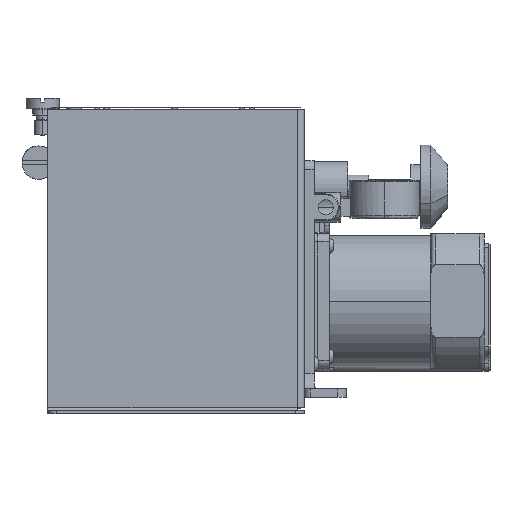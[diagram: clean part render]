
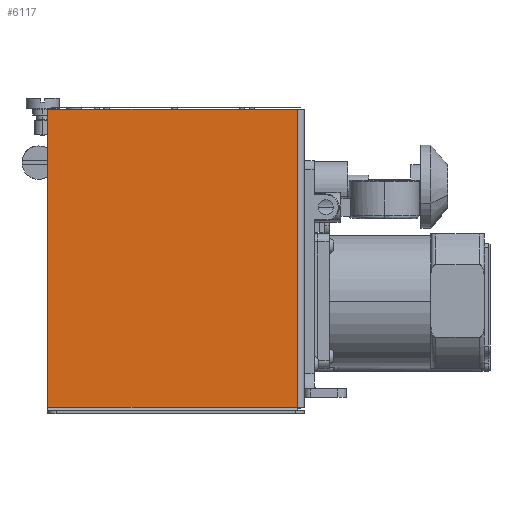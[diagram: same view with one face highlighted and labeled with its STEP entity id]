
A CAD part, left-side view. The second image highlights one B-rep face of the part: STEP entity #6117.
In plain terms, the highlighted planar face has unit normal (-1, 0, 0).
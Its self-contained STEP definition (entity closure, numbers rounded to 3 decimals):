
#53 = CARTESIAN_POINT ( 'NONE',  ( -3.237, 221.102, 385.422 ) ) ;
#640 = CARTESIAN_POINT ( 'NONE',  ( -3.237, 71.102, 385.422 ) ) ;
#666 = CARTESIAN_POINT ( 'NONE',  ( -3.237, 221.102, 206.422 ) ) ;
#1172 = DIRECTION ( 'NONE',  ( 0., -1., 0. ) ) ;
#2693 = LINE ( 'NONE', #17376, #20498 ) ;
#3563 = CARTESIAN_POINT ( 'NONE',  ( -3.237, 145.102, 207.422 ) ) ;
#5278 = ORIENTED_EDGE ( 'NONE', *, *, #28497, .F. ) ;
#5505 = DIRECTION ( 'NONE',  ( 0., 1., 0. ) ) ;
#6117 = ADVANCED_FACE ( 'NONE', ( #16062 ), #10763, .T. ) ;
#6904 = VECTOR ( 'NONE', #26294, 1000. ) ;
#7721 = ORIENTED_EDGE ( 'NONE', *, *, #29861, .T. ) ;
#10763 = PLANE ( 'NONE',  #27193 ) ;
#11046 = ORIENTED_EDGE ( 'NONE', *, *, #17270, .F. ) ;
#12288 = CARTESIAN_POINT ( 'NONE',  ( -3.237, 71.102, 207.422 ) ) ;
#12887 = VECTOR ( 'NONE', #15967, 1000. ) ;
#15936 = VECTOR ( 'NONE', #1172, 1000. ) ;
#15967 = DIRECTION ( 'NONE',  ( 0., 0., 1. ) ) ;
#16062 = FACE_OUTER_BOUND ( 'NONE', #27062, .T. ) ;
#16983 = CARTESIAN_POINT ( 'NONE',  ( -3.237, 71.102, 206.422 ) ) ;
#17270 = EDGE_CURVE ( 'NONE', #24087, #24031, #19857, .T. ) ;
#17376 = CARTESIAN_POINT ( 'NONE',  ( -3.237, 221.102, 206.422 ) ) ;
#18783 = ORIENTED_EDGE ( 'NONE', *, *, #21860, .F. ) ;
#19262 = LINE ( 'NONE', #12288, #6904 ) ;
#19410 = VERTEX_POINT ( 'NONE', #16983 ) ;
#19857 = LINE ( 'NONE', #27303, #12887 ) ;
#20498 = VECTOR ( 'NONE', #5505, 1000. ) ;
#21843 = VERTEX_POINT ( 'NONE', #640 ) ;
#21860 = EDGE_CURVE ( 'NONE', #19410, #24087, #2693, .T. ) ;
#22233 = DIRECTION ( 'NONE',  ( -1., 0., 0. ) ) ;
#24031 = VERTEX_POINT ( 'NONE', #53 ) ;
#24087 = VERTEX_POINT ( 'NONE', #666 ) ;
#26294 = DIRECTION ( 'NONE',  ( 0., 0., 1. ) ) ;
#26723 = CARTESIAN_POINT ( 'NONE',  ( -3.237, 69.102, 385.422 ) ) ;
#27062 = EDGE_LOOP ( 'NONE', ( #18783, #7721, #5278, #11046 ) ) ;
#27164 = DIRECTION ( 'NONE',  ( 0., -1., 0. ) ) ;
#27193 = AXIS2_PLACEMENT_3D ( 'NONE', #3563, #22233, #27164 ) ;
#27303 = CARTESIAN_POINT ( 'NONE',  ( -3.237, 221.102, 385.422 ) ) ;
#28481 = LINE ( 'NONE', #26723, #15936 ) ;
#28497 = EDGE_CURVE ( 'NONE', #24031, #21843, #28481, .T. ) ;
#29861 = EDGE_CURVE ( 'NONE', #19410, #21843, #19262, .T. ) ;
